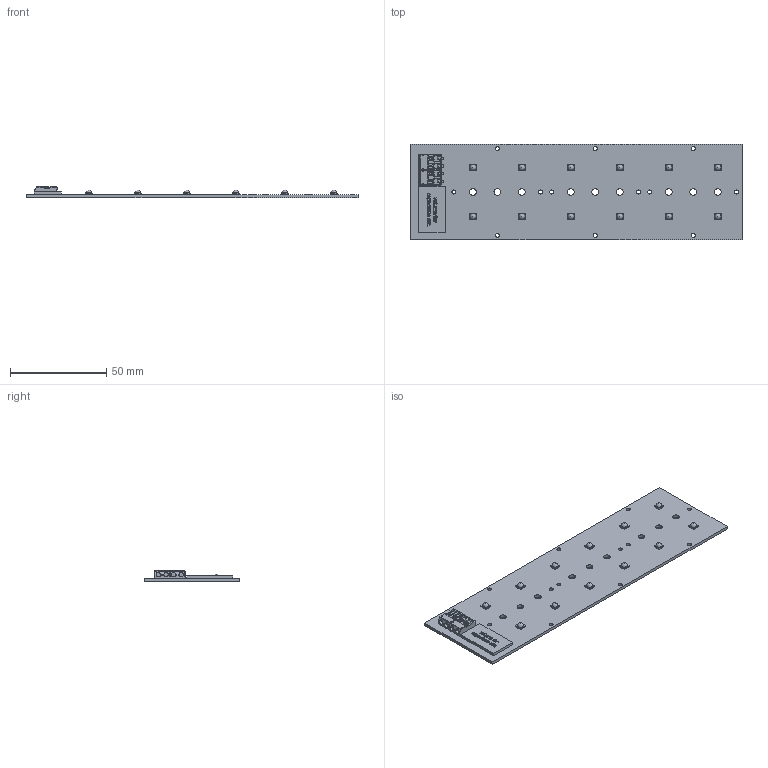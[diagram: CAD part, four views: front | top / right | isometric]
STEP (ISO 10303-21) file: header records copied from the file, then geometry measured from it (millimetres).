
FILE_DESCRIPTION(/* description */ (''),/* implementation_level */ '2;1');
FILE_NAME(/* name */ 'C:\FastFlex 2x6 DA and DAX Gen4.stp',/* time_stamp */ '2019-01-17T12:20:20+01:00',/* author */ ('nlv21627'),/* organization */ (''),/* preprocessor_version */ 'ST-DEVELOPER v16.5',/* originating_system */ 'Autodesk Inventor 2017',/* authorisation */ '');
FILE_SCHEMA (('AUTOMOTIVE_DESIGN { 1 0 10303 214 3 1 1 }'));
Length unit declared in the file: millimetre
Products named in the file (1): 4422-409-57700_simplified
Bounding box: 172.2 x 49.5 x 5.85 mm (x, y, z)
Volume: 14795 mm3; surface area: 18866.7 mm2
Topology: 1 solids, 49 shells, 1535 faces, 4145 edges, 2707 vertices
Faces by surface type: plane 931, cylinder 281, bspline 199, cone 60, torus 52, sphere 12
Full cylindrical faces by diameter (mm): 0.1 x48, 2.1 x12, 3.5 x9
Entity records: 50548 total; most frequent: CARTESIAN_POINT 12924, ORIENTED_EDGE 7798, DIRECTION 6870, EDGE_CURVE 3899, LINE 2822, VECTOR 2822, VERTEX_POINT 2602, AXIS2_PLACEMENT_3D 2024
